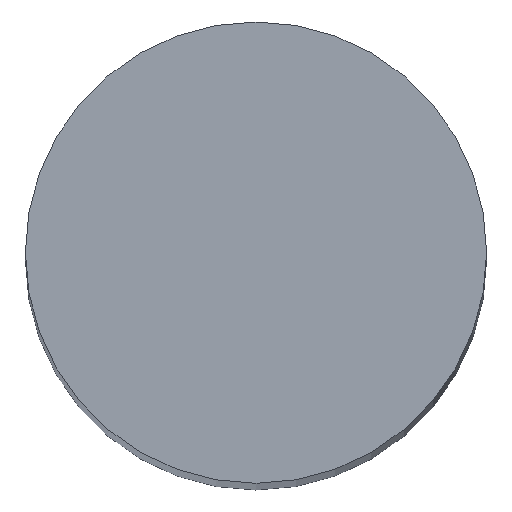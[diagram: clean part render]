
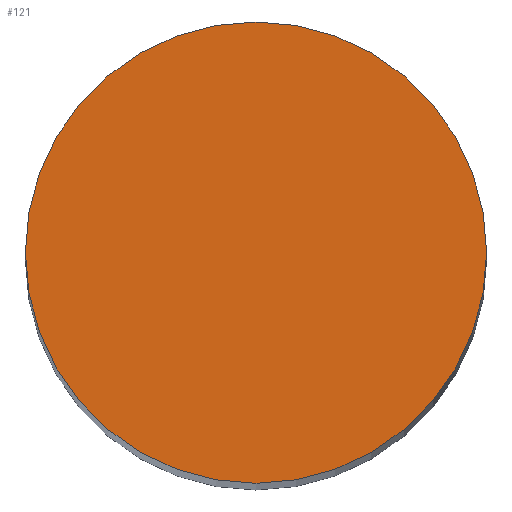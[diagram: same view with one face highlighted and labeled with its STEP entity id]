
A CAD part, top view. The second image highlights one B-rep face of the part: STEP entity #121.
In plain terms, the highlighted planar face has unit normal (0, 0, 1).
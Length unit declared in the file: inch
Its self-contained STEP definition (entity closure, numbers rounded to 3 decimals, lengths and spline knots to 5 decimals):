
#15=PLANE('',#145);
#24=FACE_OUTER_BOUND('',#33,.T.);
#33=EDGE_LOOP('',(#95));
#59=CIRCLE('',#144,0.1872);
#63=VERTEX_POINT('',#193);
#74=EDGE_CURVE('',#63,#63,#59,.T.);
#95=ORIENTED_EDGE('',*,*,#74,.T.);
#121=ADVANCED_FACE('',(#24),#15,.T.);
#144=AXIS2_PLACEMENT_3D('',#195,#161,#162);
#145=AXIS2_PLACEMENT_3D('',#238,#165,#166);
#161=DIRECTION('center_axis',(0.,0.,1.));
#162=DIRECTION('ref_axis',(1.,0.,0.));
#165=DIRECTION('center_axis',(0.,0.,1.));
#166=DIRECTION('ref_axis',(1.,0.,0.));
#193=CARTESIAN_POINT('',(0.1872,0.,3.13));
#195=CARTESIAN_POINT('Origin',(0.,0.,3.13));
#238=CARTESIAN_POINT('Origin',(0.,0.,3.13));
